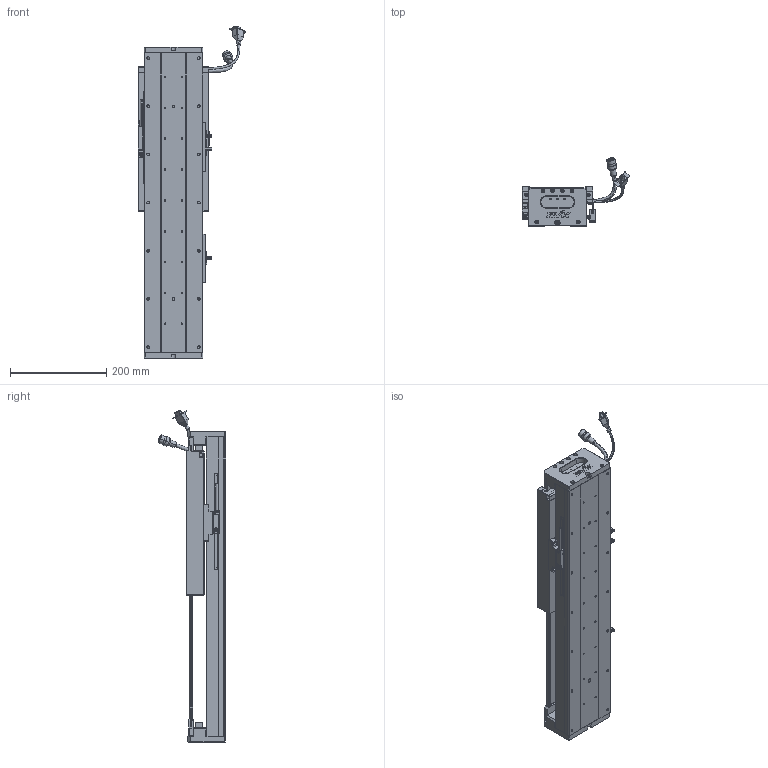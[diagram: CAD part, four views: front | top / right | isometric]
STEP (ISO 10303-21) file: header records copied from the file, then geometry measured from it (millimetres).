
FILE_DESCRIPTION (( 'STEP AP203' ), '1' );
FILE_NAME ('Z4-RY120D-1-L500-B-K.SLDASM_0250.step', '2021-05-17T06:05:48', ( '盈信电脑' ), ( '东莞市道滘镇水果街19号' ), 'SwSTEP 2.0', 'SolidWorks 2016', '' );
FILE_SCHEMA (( 'CONFIG_CONTROL_DESIGN' ));
Length unit declared in the file: millimetre
Products named in the file (37): SHIELDPLATE; RY100FB-遵嫖萇覜茼え; SCREW-M1.6; COVER; SCREW-M1.6-2; PSLH080_PSLF2; HOLDER0; SEAL-Part-1; Z4-RY120-500-倰第菁釱_0250; 覜茼ん672; LABEL; Z-120詩湍傷裔啣; HARNESS; Z-RY120D詩湍狟揤裔; SEAL; SCALE-Part-1; Z4-RY120铝滑块（21款）; SCREW-M1.6-1; SCALE; Z-RY120D詩湍奻揤裔; LABEL-Part-1; 672嫖萇羲壽假蚾釱; SCREW-M1.7; SCREW-M1.7-1; Z4-RY120D-1-L500-B-K.SLDASM_0250; HARNESS-Part-2; HARNESS-Part-1; 140雄赽晤鎢ん堤盄; 榋妏寠巭燃_暯_M2_2; COVER-Part-1; SCALE-Part-2; PBU_SHEET; Z4-RY120-L500詩湍100mm遵_0250; 080黍杅芛假蚾釱21遴; 120-Z-臏賑輸盄裔(21遴); SCREW-M1.6-3; 140蚥薯蝶輸
Assembly tree (43 placements, depth 4):
  Z4-RY120D-1-L500-B-K.SLDASM_0250
    Z4-RY120-500-倰第菁釱_0250
    覜茼ん672  x3
    672嫖萇羲壽假蚾釱  x2
    Z4-RY120铝滑块（21款）
    PSLH080_PSLF2
      SCALE
        SCALE-Part-1
        SCALE-Part-2
      HARNESS
        HARNESS-Part-1
        HARNESS-Part-2
      LABEL
        LABEL-Part-1
      COVER
        COVER-Part-1
      SEAL
        SEAL-Part-1
      榋妏寠巭燃_暯_M2_2
      SHIELDPLATE
      SCREW-M1.7
      SCREW-M1.7-1
      PBU_SHEET
      SCREW-M1.6
      SCREW-M1.6-1
      SCREW-M1.6-2
      SCREW-M1.6-3
      HOLDER0
    080黍杅芛假蚾釱21遴
    120-Z-臏賑輸盄裔(21遴)
    140雄赽晤鎢ん堤盄
    140蚥薯蝶輸  x2
    RY100FB-遵嫖萇覜茼え
    Z-120詩湍傷裔啣  x2
    Z-RY120D詩湍奻揤裔  x2
    Z-RY120D詩湍狟揤裔  x2
    Z4-RY120-L500詩湍100mm遵_0250
Bounding box: 222.88 x 140.94 x 689 mm (x, y, z)
Volume: 2457530.3 mm3; surface area: 759895.7 mm2
Topology: 38 solids, 38 shells, 2629 faces, 6988 edges, 4416 vertices
Faces by surface type: cylinder 1156, plane 1097, cone 254, torus 69, bspline 53
Entity records: 76317 total; most frequent: CARTESIAN_POINT 19382, DIRECTION 11042, ORIENTED_EDGE 10992, EDGE_CURVE 5496, AXIS2_PLACEMENT_3D 4026, VERTEX_POINT 3536, VECTOR 2990, LINE 2990
